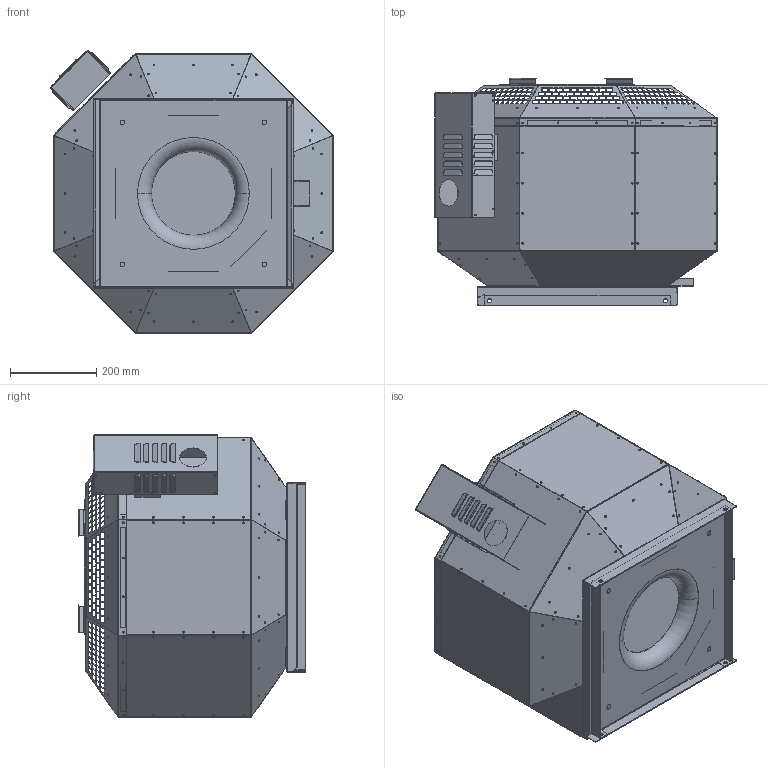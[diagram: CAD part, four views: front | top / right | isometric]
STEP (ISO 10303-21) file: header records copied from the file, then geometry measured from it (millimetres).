
FILE_DESCRIPTION (( 'STEP AP203' ), '1' );
FILE_NAME ('144618-00_DVNI315D2F430_step.step', '2018-07-31T13:19:58', ( '' ), ( '' ), 'SwSTEP 2.0', 'SolidWorks 2017', '' );
FILE_SCHEMA (( 'CONFIG_CONTROL_DESIGN' ));
Products named in the file (2): 144618-00_DVNI315D2F430_step
Bounding box: 657.65 x 528.51 x 657.65 mm (x, y, z)
Surface area: 3319072.2 mm2 (no closed solid volume)
Topology: 0 solids, 28 shells, 2569 faces, 10104 edges, 7021 vertices
Faces by surface type: plane 2060, cylinder 423, bspline 84, torus 2
Entity records: 124038 total; most frequent: CARTESIAN_POINT 38109, ORIENTED_EDGE 16591, DIRECTION 15997, EDGE_CURVE 10104, VECTOR 8239, LINE 8239, VERTEX_POINT 7021, EDGE_LOOP 4344
